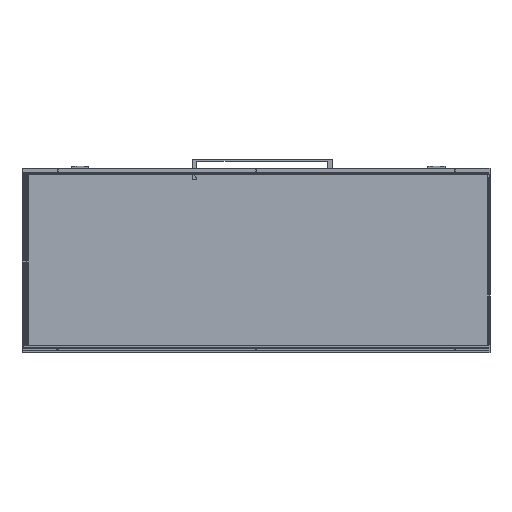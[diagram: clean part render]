
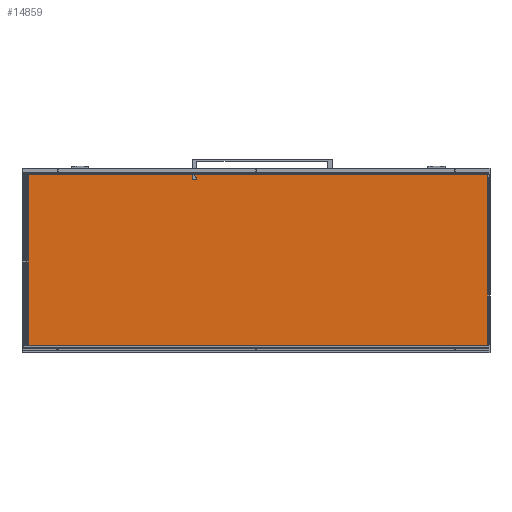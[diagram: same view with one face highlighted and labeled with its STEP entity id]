
A CAD part, left-side view. The second image highlights one B-rep face of the part: STEP entity #14859.
In plain terms, the highlighted planar face has unit normal (-1, 0, 0) as drawn and (0, 0, 1) by its records, which use the part's own axes.
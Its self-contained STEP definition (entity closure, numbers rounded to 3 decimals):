
#14677=DIRECTION('',(1.,0.,0.));
#14678=VECTOR('',#14677,10.);
#14679=CARTESIAN_POINT('',(369.5,-980.,3.));
#14680=LINE('',#14679,#14678);
#14685=DIRECTION('',(0.,-1.,0.));
#14686=VECTOR('',#14685,7.3);
#14687=CARTESIAN_POINT('',(369.5,989.5,3.));
#14688=LINE('',#14687,#14686);
#14689=DIRECTION('',(0.,-1.,0.));
#14690=VECTOR('',#14689,9.5);
#14691=CARTESIAN_POINT('',(369.5,-980.,3.));
#14692=LINE('',#14691,#14690);
#14693=DIRECTION('',(-1.,0.,0.));
#14694=VECTOR('',#14693,739.);
#14695=CARTESIAN_POINT('',(369.5,-989.5,3.));
#14696=LINE('',#14695,#14694);
#14697=DIRECTION('',(0.,1.,0.));
#14698=VECTOR('',#14697,1979.);
#14699=CARTESIAN_POINT('',(-369.5,-989.5,3.));
#14700=LINE('',#14699,#14698);
#14701=DIRECTION('',(1.,0.,0.));
#14702=VECTOR('',#14701,739.);
#14703=CARTESIAN_POINT('',(-369.5,989.5,3.));
#14704=LINE('',#14703,#14702);
#14717=DIRECTION('',(-1.,0.,0.));
#14718=VECTOR('',#14717,10.);
#14719=CARTESIAN_POINT('',(379.5,982.2,3.));
#14720=LINE('',#14719,#14718);
#14721=DIRECTION('',(0.,1.,0.));
#14722=VECTOR('',#14721,1962.2);
#14723=CARTESIAN_POINT('',(379.5,-980.,3.));
#14724=LINE('',#14723,#14722);
#14769=CARTESIAN_POINT('',(369.5,982.2,3.));
#14770=VERTEX_POINT('',#14769);
#14771=CARTESIAN_POINT('',(369.5,989.5,3.));
#14772=VERTEX_POINT('',#14771);
#14773=CARTESIAN_POINT('',(369.5,-980.,3.));
#14774=VERTEX_POINT('',#14773);
#14775=CARTESIAN_POINT('',(369.5,-989.5,3.));
#14776=VERTEX_POINT('',#14775);
#14777=CARTESIAN_POINT('',(379.5,982.2,3.));
#14778=VERTEX_POINT('',#14777);
#14779=CARTESIAN_POINT('',(379.5,-980.,3.));
#14780=VERTEX_POINT('',#14779);
#14781=CARTESIAN_POINT('',(-369.5,-989.5,3.));
#14782=VERTEX_POINT('',#14781);
#14783=CARTESIAN_POINT('',(-369.5,989.5,3.));
#14784=VERTEX_POINT('',#14783);
#14838=CARTESIAN_POINT('',(0.,0.,3.));
#14839=DIRECTION('',(0.,0.,1.));
#14840=DIRECTION('',(1.,0.,0.));
#14841=AXIS2_PLACEMENT_3D('',#14838,#14839,#14840);
#14842=PLANE('',#14841);
#14844=ORIENTED_EDGE('',*,*,#14843,.T.);
#14846=ORIENTED_EDGE('',*,*,#14845,.F.);
#14848=ORIENTED_EDGE('',*,*,#14847,.F.);
#14849=ORIENTED_EDGE('',*,*,#14830,.F.);
#14850=ORIENTED_EDGE('',*,*,#14819,.T.);
#14852=ORIENTED_EDGE('',*,*,#14851,.T.);
#14854=ORIENTED_EDGE('',*,*,#14853,.T.);
#14856=ORIENTED_EDGE('',*,*,#14855,.T.);
#14857=EDGE_LOOP('',(#14844,#14846,#14848,#14849,#14850,#14852,#14854,#14856));
#14858=FACE_OUTER_BOUND('',#14857,.F.);
#14859=ADVANCED_FACE('',(#14858),#14842,.T.);
#14819=EDGE_CURVE('',#14774,#14776,#14692,.T.);
#14830=EDGE_CURVE('',#14774,#14780,#14680,.T.);
#14843=EDGE_CURVE('',#14772,#14770,#14688,.T.);
#14845=EDGE_CURVE('',#14778,#14770,#14720,.T.);
#14847=EDGE_CURVE('',#14780,#14778,#14724,.T.);
#14851=EDGE_CURVE('',#14776,#14782,#14696,.T.);
#14853=EDGE_CURVE('',#14782,#14784,#14700,.T.);
#14855=EDGE_CURVE('',#14784,#14772,#14704,.T.);
